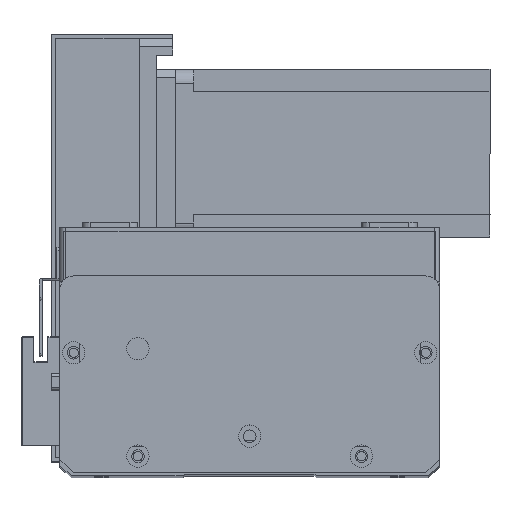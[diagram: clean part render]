
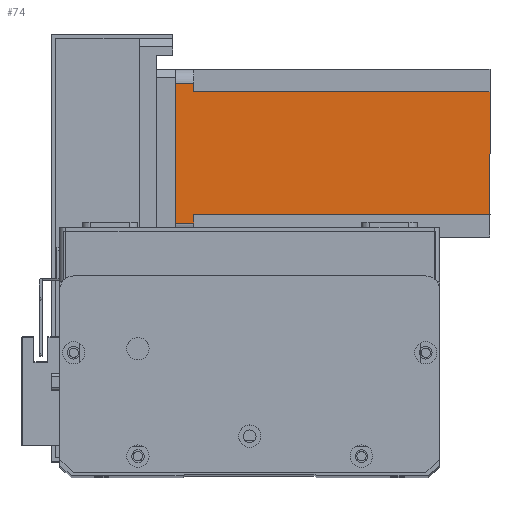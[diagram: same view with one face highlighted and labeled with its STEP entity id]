
A CAD part, top view. The second image highlights one B-rep face of the part: STEP entity #74.
In plain terms, the highlighted planar face has unit normal (0, 0, 1) as drawn and (0, -1, 0) by its records, which use the part's own axes.
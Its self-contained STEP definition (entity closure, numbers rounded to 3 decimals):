
#74 = ADVANCED_FACE ( 'NONE', ( #8932 ), #6602, .T. ) ;
#883 = CARTESIAN_POINT ( 'NONE',  ( 52., 0., -112.5 ) ) ;
#1320 = EDGE_CURVE ( 'NONE', #13191, #27527, #16064, .T. ) ;
#1662 = EDGE_CURVE ( 'NONE', #3249, #20733, #20881, .T. ) ;
#2100 = VERTEX_POINT ( 'NONE', #2414 ) ;
#2414 = CARTESIAN_POINT ( 'NONE',  ( 52., 0., -6.5 ) ) ;
#2963 = VERTEX_POINT ( 'NONE', #5242 ) ;
#3249 = VERTEX_POINT ( 'NONE', #25172 ) ;
#3975 = DIRECTION ( 'NONE',  ( 0., 0., -1. ) ) ;
#4113 = ORIENTED_EDGE ( 'NONE', *, *, #1320, .T. ) ;
#5195 = ORIENTED_EDGE ( 'NONE', *, *, #12017, .T. ) ;
#5242 = CARTESIAN_POINT ( 'NONE',  ( 5., 0., 0. ) ) ;
#5340 = EDGE_LOOP ( 'NONE', ( #5195, #4113, #11801, #19097, #17555, #7460, #17988, #15812 ) ) ;
#5471 = DIRECTION ( 'NONE',  ( 0., 0., 1. ) ) ;
#5783 = VECTOR ( 'NONE', #23406, 1000. ) ;
#5812 = LINE ( 'NONE', #28342, #22742 ) ;
#6009 = VECTOR ( 'NONE', #20684, 1000. ) ;
#6602 = PLANE ( 'NONE',  #21159 ) ;
#6705 = CARTESIAN_POINT ( 'NONE',  ( 8., 0., -6.5 ) ) ;
#7068 = VERTEX_POINT ( 'NONE', #883 ) ;
#7166 = VECTOR ( 'NONE', #9733, 1000. ) ;
#7171 = LINE ( 'NONE', #16700, #5783 ) ;
#7460 = ORIENTED_EDGE ( 'NONE', *, *, #20897, .F. ) ;
#8537 = LINE ( 'NONE', #20154, #9234 ) ;
#8932 = FACE_OUTER_BOUND ( 'NONE', #5340, .T. ) ;
#9029 = DIRECTION ( 'NONE',  ( -1., 0., 0. ) ) ;
#9234 = VECTOR ( 'NONE', #17924, 1000. ) ;
#9392 = EDGE_CURVE ( 'NONE', #2963, #20733, #5812, .T. ) ;
#9504 = DIRECTION ( 'NONE',  ( 0., -1., 0. ) ) ;
#9733 = DIRECTION ( 'NONE',  ( 0., 0., -1. ) ) ;
#11801 = ORIENTED_EDGE ( 'NONE', *, *, #23921, .F. ) ;
#11894 = LINE ( 'NONE', #27304, #6009 ) ;
#12017 = EDGE_CURVE ( 'NONE', #2100, #13191, #11894, .T. ) ;
#12543 = CARTESIAN_POINT ( 'NONE',  ( 5., 0., -6.5 ) ) ;
#12946 = VECTOR ( 'NONE', #9029, 1000. ) ;
#13103 = DIRECTION ( 'NONE',  ( 0., 0., 1. ) ) ;
#13191 = VERTEX_POINT ( 'NONE', #14181 ) ;
#14181 = CARTESIAN_POINT ( 'NONE',  ( 55., 0., -6.5 ) ) ;
#15812 = ORIENTED_EDGE ( 'NONE', *, *, #22812, .F. ) ;
#16064 = LINE ( 'NONE', #25481, #27873 ) ;
#16700 = CARTESIAN_POINT ( 'NONE',  ( 0., 0., -112.5 ) ) ;
#17555 = ORIENTED_EDGE ( 'NONE', *, *, #1662, .F. ) ;
#17924 = DIRECTION ( 'NONE',  ( 1., 0., 0. ) ) ;
#17988 = ORIENTED_EDGE ( 'NONE', *, *, #23548, .T. ) ;
#19097 = ORIENTED_EDGE ( 'NONE', *, *, #9392, .T. ) ;
#19568 = LINE ( 'NONE', #22953, #7166 ) ;
#20154 = CARTESIAN_POINT ( 'NONE',  ( 0., 0., 0. ) ) ;
#20684 = DIRECTION ( 'NONE',  ( 1., 0., 0. ) ) ;
#20733 = VERTEX_POINT ( 'NONE', #12543 ) ;
#20881 = LINE ( 'NONE', #6705, #12946 ) ;
#20897 = EDGE_CURVE ( 'NONE', #25395, #3249, #21621, .T. ) ;
#21159 = AXIS2_PLACEMENT_3D ( 'NONE', #26989, #9504, #26510 ) ;
#21621 = LINE ( 'NONE', #28604, #26166 ) ;
#22742 = VECTOR ( 'NONE', #3975, 1000. ) ;
#22812 = EDGE_CURVE ( 'NONE', #2100, #7068, #19568, .T. ) ;
#22953 = CARTESIAN_POINT ( 'NONE',  ( 52., 0., -112.5 ) ) ;
#23406 = DIRECTION ( 'NONE',  ( 1., 0., 0. ) ) ;
#23548 = EDGE_CURVE ( 'NONE', #25395, #7068, #7171, .T. ) ;
#23741 = CARTESIAN_POINT ( 'NONE',  ( 8., 0., -112.5 ) ) ;
#23921 = EDGE_CURVE ( 'NONE', #2963, #27527, #8537, .T. ) ;
#24790 = CARTESIAN_POINT ( 'NONE',  ( 55., 0., 0. ) ) ;
#25172 = CARTESIAN_POINT ( 'NONE',  ( 8., 0., -6.5 ) ) ;
#25395 = VERTEX_POINT ( 'NONE', #23741 ) ;
#25481 = CARTESIAN_POINT ( 'NONE',  ( 55., 0., -112.5 ) ) ;
#26166 = VECTOR ( 'NONE', #13103, 1000. ) ;
#26510 = DIRECTION ( 'NONE',  ( 0., 0., -1. ) ) ;
#26989 = CARTESIAN_POINT ( 'NONE',  ( 0., 0., -112.5 ) ) ;
#27304 = CARTESIAN_POINT ( 'NONE',  ( 52., 0., -6.5 ) ) ;
#27527 = VERTEX_POINT ( 'NONE', #24790 ) ;
#27873 = VECTOR ( 'NONE', #5471, 1000. ) ;
#28342 = CARTESIAN_POINT ( 'NONE',  ( 5., 0., -112.5 ) ) ;
#28604 = CARTESIAN_POINT ( 'NONE',  ( 8., 0., -112.5 ) ) ;
